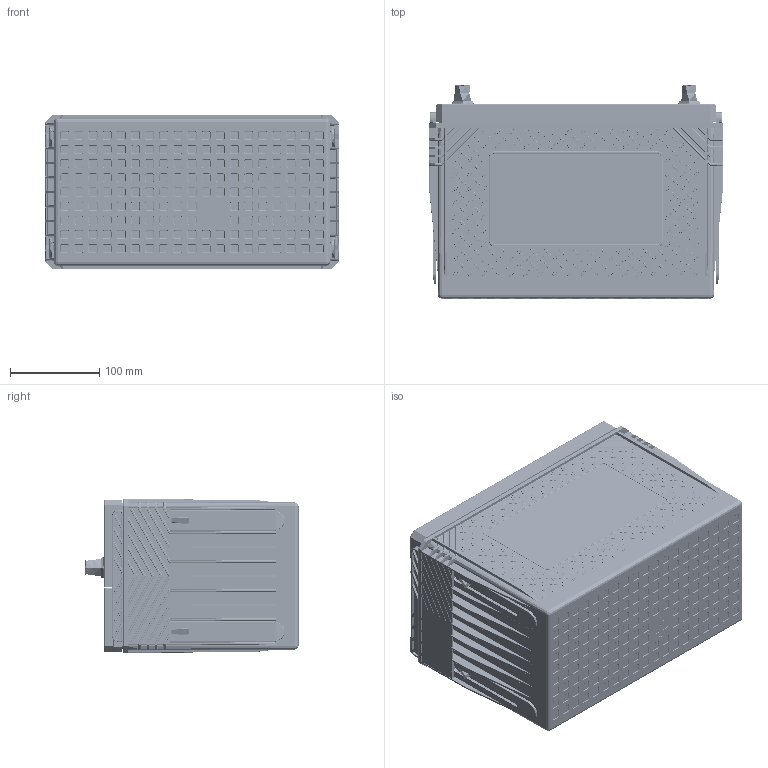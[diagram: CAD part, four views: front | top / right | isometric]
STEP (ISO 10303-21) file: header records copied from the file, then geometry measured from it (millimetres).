
FILE_DESCRIPTION (( 'STEP AP203' ), '1' );
FILE_NAME ('ODP-AGM31.STEP', '2024-02-26T19:44:11', ( '' ), ( '' ), 'SwSTEP 2.0', 'SolidWorks 2022', '' );
FILE_SCHEMA (( 'CONFIG_CONTROL_DESIGN' ));
Products named in the file (1): ODP-AGM31
Bounding box: 329.43 x 239.19 x 172.21 mm (x, y, z)
Topology: 10 solids, 12 shells, 27676 faces, 62626 edges, 35175 vertices
Faces by surface type: cylinder 10831, plane 5677, torus 4379, bspline 2834, cone 2253, sphere 1702
Full cylindrical faces by diameter (mm): 0.762 x1, 2.794 x12, 3.175 x1, 14.351 x2, 15.875 x5, 17.983 x7, 18.085 x1, 21.514 x4
Entity records: 802461 total; most frequent: CARTESIAN_POINT 203668, DIRECTION 132010, ORIENTED_EDGE 123886, EDGE_CURVE 61941, AXIS2_PLACEMENT_3D 52300, VERTEX_POINT 35117, EDGE_LOOP 28582, FACE_OUTER_BOUND 27764
